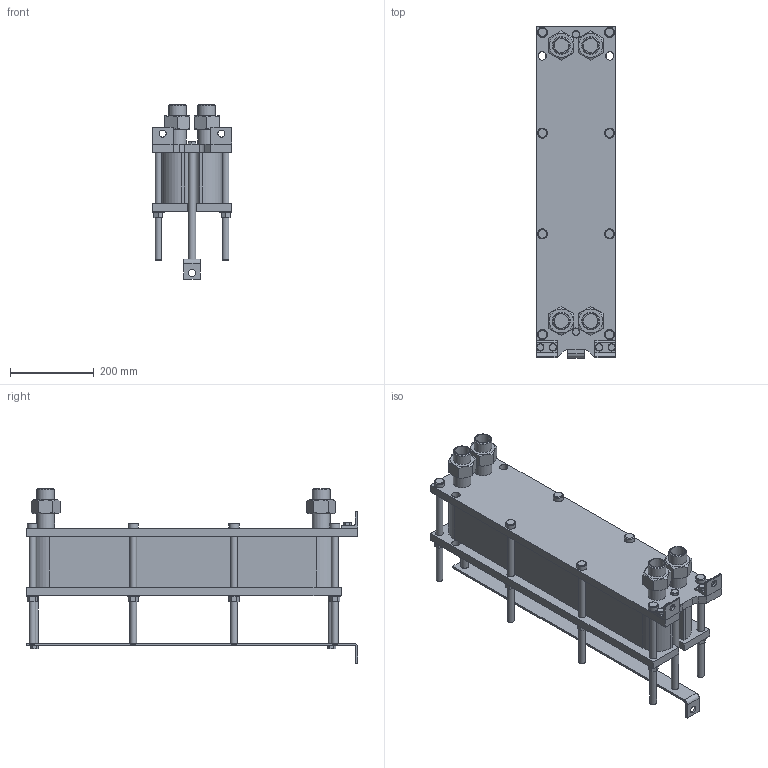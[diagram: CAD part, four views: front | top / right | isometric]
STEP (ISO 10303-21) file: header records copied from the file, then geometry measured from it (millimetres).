
FILE_DESCRIPTION(/* description */ (''),/* implementation_level */ '2;1');
FILE_NAME(/* name */ 'C:\Users\zhuro\Desktop\ENCO\TO\ЭН-008\ЭН-0,5-008-39-1.stp',/* time_stamp */ '2022-06-06T10:48:10+03:00',/* author */ ('zhuro'),/* organization */ (''),/* preprocessor_version */ 'ST-DEVELOPER v18.1',/* originating_system */ 'Autodesk Inventor 2022',/* authorisation */ '');
FILE_SCHEMA (('AUTOMOTIVE_DESIGN { 1 0 10303 214 3 1 1 }'));
Length unit declared in the file: millimetre
Products named in the file (1): ЭН-0,5-008-39-1
Bounding box: 190 x 790 x 416.2 mm (x, y, z)
Volume: 19037944.2 mm3; surface area: 1505536.1 mm2
Topology: 40 solids, 40 shells, 428 faces, 924 edges, 606 vertices
Faces by surface type: plane 273, cylinder 109, cone 40, torus 6
Full cylindrical faces by diameter (mm): 12 x6, 14 x2, 16 x20, 17 x8, 18 x19, 20 x5, 24 x8, 28 x8, 34.3 x8, 42.3 x8
Entity records: 15843 total; most frequent: CARTESIAN_POINT 5991, DIRECTION 1984, ORIENTED_EDGE 1848, EDGE_CURVE 924, AXIS2_PLACEMENT_3D 715, VERTEX_POINT 606, LINE 554, VECTOR 554
